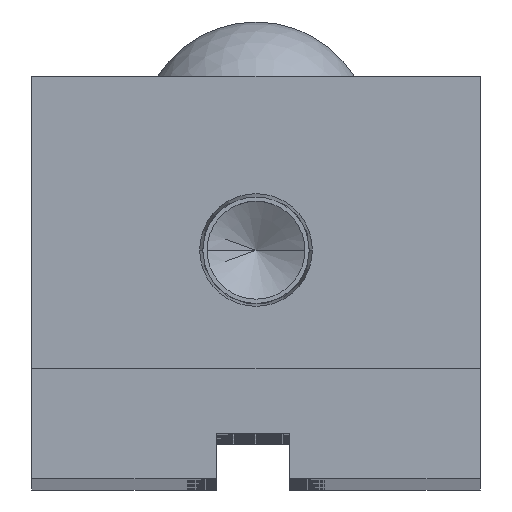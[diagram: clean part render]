
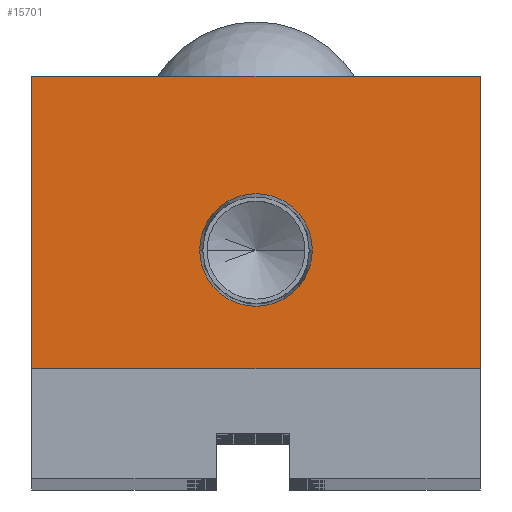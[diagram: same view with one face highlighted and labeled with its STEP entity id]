
A CAD part, top view. The second image highlights one B-rep face of the part: STEP entity #15701.
In plain terms, the highlighted planar face has unit normal (0, 0, 1).
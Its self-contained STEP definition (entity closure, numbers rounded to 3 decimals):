
#120 = CARTESIAN_POINT ( 'NONE',  ( 24.5, 32., 0. ) ) ;
#202 = FACE_OUTER_BOUND ( 'NONE', #11162, .T. ) ;
#294 = CIRCLE ( 'NONE', #1486, 6.154 ) ;
#329 = EDGE_CURVE ( 'NONE', #6656, #4651, #13403, .T. ) ;
#342 = LINE ( 'NONE', #11303, #13192 ) ;
#456 = DIRECTION ( 'NONE',  ( 1., 0., 0. ) ) ;
#778 = CARTESIAN_POINT ( 'NONE',  ( -24.5, 32., 0. ) ) ;
#991 = LINE ( 'NONE', #8444, #3505 ) ;
#1486 = AXIS2_PLACEMENT_3D ( 'NONE', #15373, #7939, #456 ) ;
#1767 = DIRECTION ( 'NONE',  ( 0., 0., -1. ) ) ;
#1793 = AXIS2_PLACEMENT_3D ( 'NONE', #6748, #1767, #10490 ) ;
#2196 = EDGE_CURVE ( 'NONE', #2558, #13741, #294, .T. ) ;
#2209 = DIRECTION ( 'NONE',  ( 1., 0., 0. ) ) ;
#2265 = CIRCLE ( 'NONE', #11159, 6.154 ) ;
#2393 = EDGE_LOOP ( 'NONE', ( #15946, #15692 ) ) ;
#2558 = VERTEX_POINT ( 'NONE', #4098 ) ;
#2659 = CARTESIAN_POINT ( 'NONE',  ( 24.5, 32., 0. ) ) ;
#3047 = LINE ( 'NONE', #778, #6381 ) ;
#3066 = VECTOR ( 'NONE', #8843, 1000. ) ;
#3505 = VECTOR ( 'NONE', #2209, 1000. ) ;
#3536 = DIRECTION ( 'NONE',  ( 0., 0., 1. ) ) ;
#3609 = CARTESIAN_POINT ( 'NONE',  ( -6.154, 13., 0. ) ) ;
#3662 = ORIENTED_EDGE ( 'NONE', *, *, #329, .T. ) ;
#3864 = CARTESIAN_POINT ( 'NONE',  ( 24.5, 0., 0. ) ) ;
#4098 = CARTESIAN_POINT ( 'NONE',  ( 6.154, 13., 0. ) ) ;
#4436 = EDGE_CURVE ( 'NONE', #6320, #5371, #342, .T. ) ;
#4651 = VERTEX_POINT ( 'NONE', #2659 ) ;
#4670 = FACE_BOUND ( 'NONE', #2393, .T. ) ;
#5371 = VERTEX_POINT ( 'NONE', #8638 ) ;
#6320 = VERTEX_POINT ( 'NONE', #16163 ) ;
#6381 = VECTOR ( 'NONE', #9505, 1000. ) ;
#6656 = VERTEX_POINT ( 'NONE', #3864 ) ;
#6748 = CARTESIAN_POINT ( 'NONE',  ( 0., 0., 0. ) ) ;
#7570 = DIRECTION ( 'NONE',  ( 0., -1., 0. ) ) ;
#7939 = DIRECTION ( 'NONE',  ( 0., 0., 1. ) ) ;
#8444 = CARTESIAN_POINT ( 'NONE',  ( 24.5, 0., 0. ) ) ;
#8638 = CARTESIAN_POINT ( 'NONE',  ( -24.5, 0., 0. ) ) ;
#8843 = DIRECTION ( 'NONE',  ( 0., 1., 0. ) ) ;
#9259 = PLANE ( 'NONE',  #1793 ) ;
#9505 = DIRECTION ( 'NONE',  ( -1., 0., 0. ) ) ;
#9855 = ORIENTED_EDGE ( 'NONE', *, *, #12914, .T. ) ;
#10490 = DIRECTION ( 'NONE',  ( -1., 0., 0. ) ) ;
#10736 = ORIENTED_EDGE ( 'NONE', *, *, #4436, .T. ) ;
#11024 = CARTESIAN_POINT ( 'NONE',  ( 0., 13., 0. ) ) ;
#11062 = EDGE_CURVE ( 'NONE', #5371, #6656, #991, .T. ) ;
#11159 = AXIS2_PLACEMENT_3D ( 'NONE', #11024, #3536, #12268 ) ;
#11162 = EDGE_LOOP ( 'NONE', ( #10736, #15453, #3662, #9855 ) ) ;
#11303 = CARTESIAN_POINT ( 'NONE',  ( -24.5, 0., 0. ) ) ;
#12268 = DIRECTION ( 'NONE',  ( 1., 0., 0. ) ) ;
#12914 = EDGE_CURVE ( 'NONE', #4651, #6320, #3047, .T. ) ;
#13040 = EDGE_CURVE ( 'NONE', #13741, #2558, #2265, .T. ) ;
#13192 = VECTOR ( 'NONE', #7570, 1000. ) ;
#13403 = LINE ( 'NONE', #120, #3066 ) ;
#13741 = VERTEX_POINT ( 'NONE', #3609 ) ;
#15373 = CARTESIAN_POINT ( 'NONE',  ( 0., 13., 0. ) ) ;
#15453 = ORIENTED_EDGE ( 'NONE', *, *, #11062, .T. ) ;
#15692 = ORIENTED_EDGE ( 'NONE', *, *, #13040, .F. ) ;
#15701 = ADVANCED_FACE ( 'NONE', ( #4670, #202 ), #9259, .F. ) ;
#15946 = ORIENTED_EDGE ( 'NONE', *, *, #2196, .F. ) ;
#16163 = CARTESIAN_POINT ( 'NONE',  ( -24.5, 32., 0. ) ) ;
